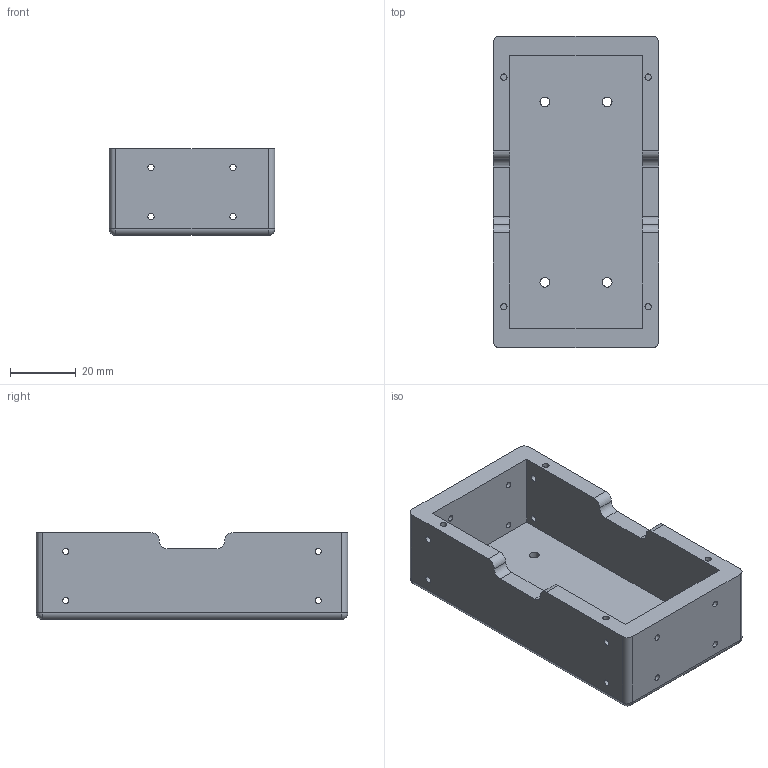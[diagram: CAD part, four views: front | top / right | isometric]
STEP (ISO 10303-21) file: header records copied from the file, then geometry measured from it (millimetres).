
FILE_DESCRIPTION(/* description */ (''),/* implementation_level */ '2;1');
FILE_NAME(/* name */ 'battey case redesigned v11.step',/* time_stamp */ '2025-07-16T17:35:27+08:00',/* author */ (''),/* organization */ (''),/* preprocessor_version */ 'ST-DEVELOPER v20.1',/* originating_system */ 'Autodesk Translation Framework v14.10.0.0',/* authorisation */ '');
FILE_SCHEMA (('AUTOMOTIVE_DESIGN { 1 0 10303 214 3 1 1 }'));
Length unit declared in the file: millimetre
Products named in the file (1): battey case redesigned
Bounding box: 50.5 x 95 x 26.5 mm (x, y, z)
Volume: 46328.2 mm3; surface area: 23206.7 mm2
Topology: 1 solids, 1 shells, 70 faces, 168 edges, 108 vertices
Faces by surface type: cylinder 44, plane 22, sphere 4
Full cylindrical faces by diameter (mm): 1.9 x16, 1.95 x8, 2.95 x4
Entity records: 2177 total; most frequent: DIRECTION 398, CARTESIAN_POINT 347, ORIENTED_EDGE 336, EDGE_CURVE 168, AXIS2_PLACEMENT_3D 159, EDGE_LOOP 118, VERTEX_POINT 108, CIRCLE 88
